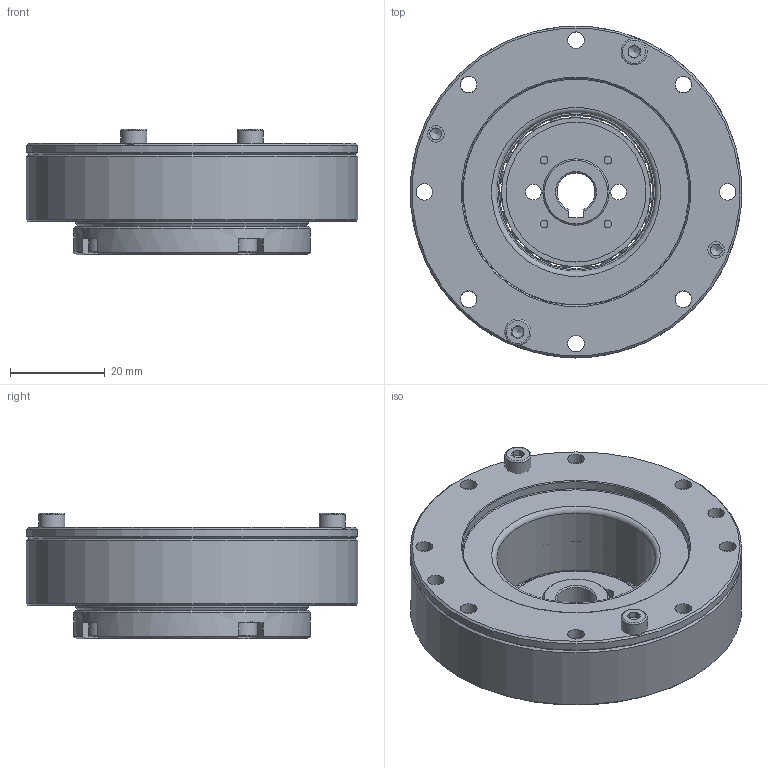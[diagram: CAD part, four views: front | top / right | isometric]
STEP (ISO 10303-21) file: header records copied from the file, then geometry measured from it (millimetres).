
FILE_DESCRIPTION (( 'STEP AP203' ), '1' );
FILE_NAME ('LHS-14-XXX-C-I-S0.STEP', '2024-12-16T00:16:14', ( '' ), ( '' ), 'SwSTEP 2.0', 'SolidWorks 2023', '' );
FILE_SCHEMA (( 'CONFIG_CONTROL_DESIGN' ));
Length unit declared in the file: millimetre
Products named in the file (1): LHS-14-XXX-C-I-S0
Bounding box: 70 x 70 x 26.5 mm (x, y, z)
Volume: 50435.2 mm3; surface area: 46447.3 mm2
Topology: 43 solids, 43 shells, 613 faces, 1511 edges, 965 vertices
Faces by surface type: plane 280, cylinder 179, cone 100, torus 31, sphere 23
Full cylindrical faces by diameter (mm): 1.6 x4, 2 x4, 2.4 x4, 2.5 x20, 3 x6, 3.3 x2, 3.5 x24, 3.7 x8, 3.8 x4, 4.4 x2, 5.5 x6, 13 x2, 14 x1, 23.5 x2, 24.1 x1, 25.07 x1, 26 x2, 26.5 x1, 26.707 x2, 27.6 x1, 29.5 x1, 31.4 x1, 32.36 x2, 33.5 x1, 33.92 x1, 34 x1, 34.7 x1, 35.499 x1, 38 x2, 38.01 x1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
Entity records: 15903 total; most frequent: DIRECTION 2924, CARTESIAN_POINT 2730, ORIENTED_EDGE 2238, AXIS2_PLACEMENT_3D 1251, EDGE_CURVE 1119, EDGE_LOOP 954, VERTEX_POINT 817, FACE_OUTER_BOUND 749
